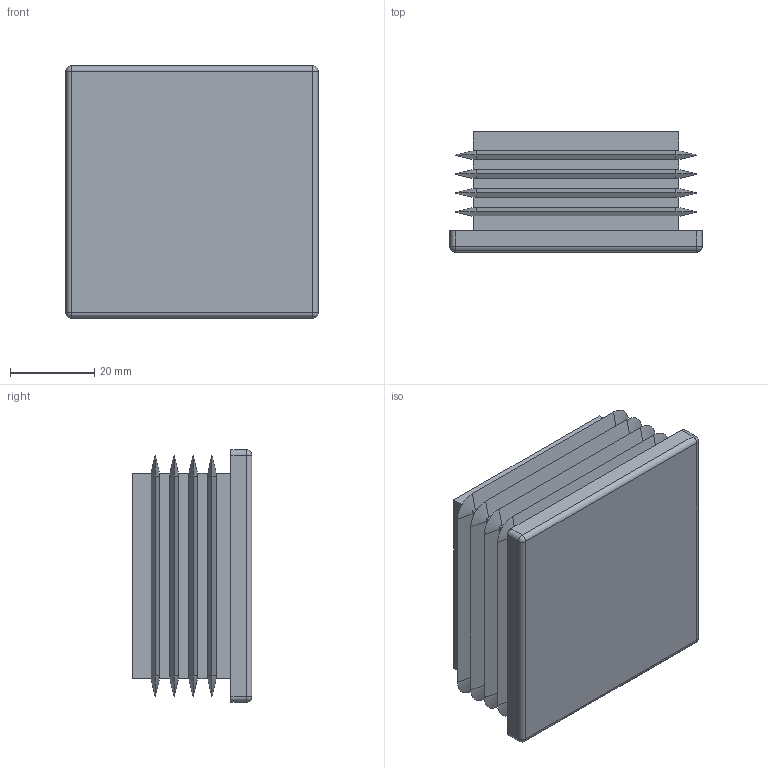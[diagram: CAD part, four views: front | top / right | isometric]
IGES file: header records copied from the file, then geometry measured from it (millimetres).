
Start section: SolidWorks IGES file using analytic representation for surfaces
Global section: file name: C:\HEMSIDA\cad\SLDPRT_2015\ifr\\ifr_60.igs; native system: SolidWorks 2015; preprocessor: SolidWorks 2015; author: Magnus; date: 150818.111805; units: millimetre
Bounding box: 60 x 28.5 x 60 mm (x, y, z)
Surface area: 22884.9 mm2 (no closed solid volume)
Topology: 0 solids, 0 shells, 108 faces, 760 edges, 756 vertices
Faces by surface type: bspline 64, revolution 44
